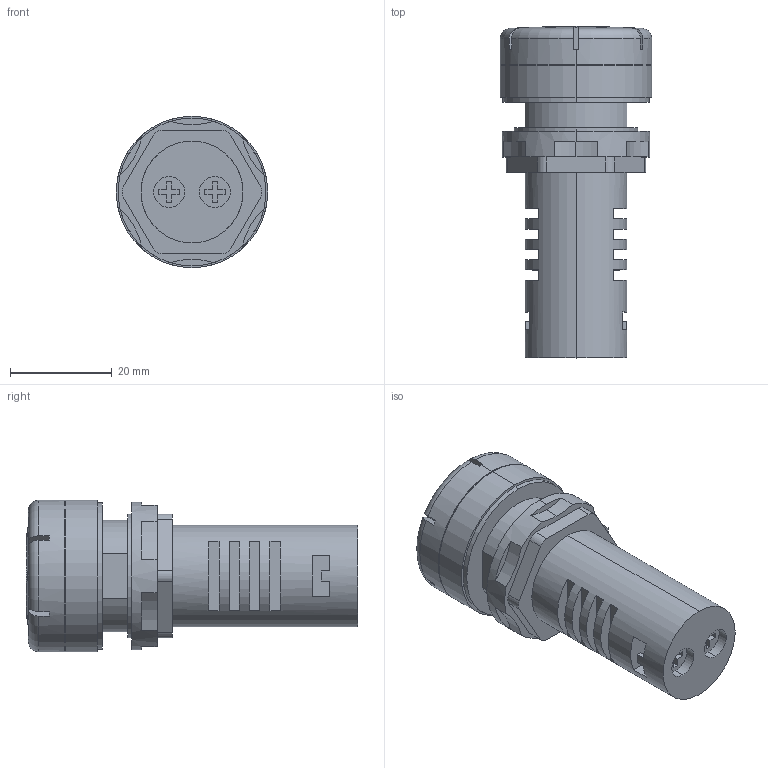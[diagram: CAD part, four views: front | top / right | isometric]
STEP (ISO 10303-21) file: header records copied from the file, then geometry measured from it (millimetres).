
FILE_DESCRIPTION (( 'STEP AP203' ), '1' );
FILE_NAME ('BZ20.STEP', '2018-02-07T13:34:09', ( '' ), ( '' ), 'SwSTEP 2.0', 'SolidWorks 2012', '' );
FILE_SCHEMA (( 'CONFIG_CONTROL_DESIGN' ));
Length unit declared in the file: millimetre
Products named in the file (1): BZ20
Bounding box: 29.7 x 65.09 x 29.7 mm (x, y, z)
Volume: 27112.6 mm3; surface area: 7957.1 mm2
Topology: 1 solids, 1 shells, 244 faces, 624 edges, 416 vertices
Faces by surface type: plane 140, cylinder 84, sphere 14, torus 6
Entity records: 7903 total; most frequent: CARTESIAN_POINT 1659, DIRECTION 1366, ORIENTED_EDGE 1248, EDGE_CURVE 624, AXIS2_PLACEMENT_3D 525, VERTEX_POINT 416, LINE 316, VECTOR 316
